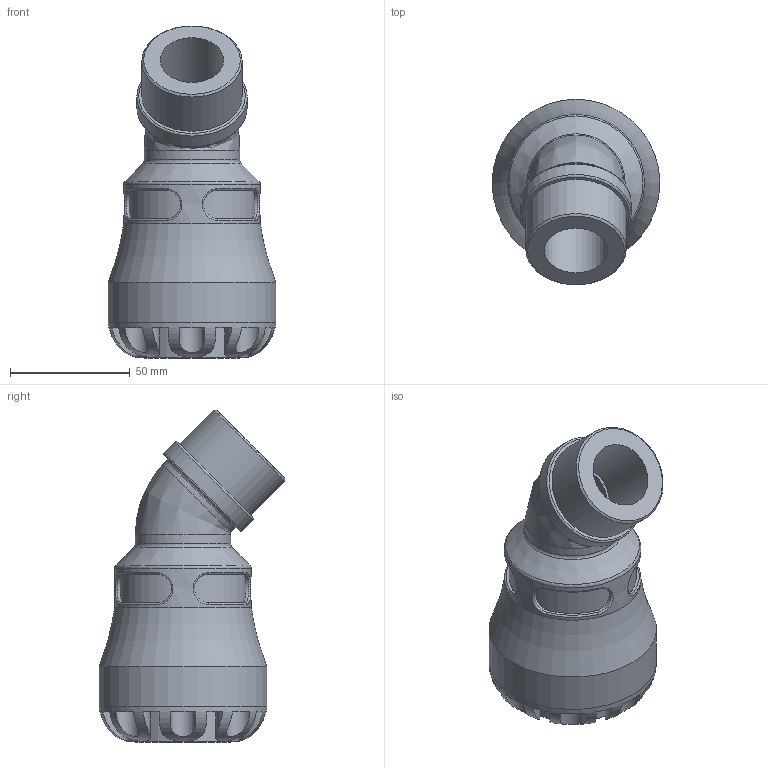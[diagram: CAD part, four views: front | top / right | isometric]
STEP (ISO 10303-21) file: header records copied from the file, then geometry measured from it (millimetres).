
FILE_DESCRIPTION(/* description */ ('PLASSON 45° Elbow with Threaded Male Offtake 40 X 1¼'''''),/* implementation_level */ '2;1');
FILE_NAME(/* name */ 'C:\Dropbox\KIMPROJECTS-Inventor\99-16-3568-Processing\S1\27.01.19\1045\104500040013.ipt.stp',/* time_stamp */ '2019-01-27T09:13:26+02:00',/* author */ ('KIM'),/* organization */ (''),/* preprocessor_version */ 'ST-DEVELOPER v15.6',/* originating_system */ 'Autodesk Inventor 2015',/* authorisation */ '');
FILE_SCHEMA (('AUTOMOTIVE_DESIGN { 1 0 10303 214 3 1 1 }'));
Length unit declared in the file: millimetre
Products named in the file (1): 104500040013
Bounding box: 70 x 77.54 x 138.54 mm (x, y, z)
Volume: 181821.4 mm3; surface area: 46518.2 mm2
Topology: 1 solids, 1 shells, 116 faces, 255 edges, 150 vertices
Faces by surface type: cylinder 53, plane 30, torus 18, bspline 12, cone 3
Full cylindrical faces by diameter (mm): 26.403 x2, 39.815 x2, 40 x1, 41.91 x1, 46.101 x1, 57.057 x1, 70 x1
Entity records: 5204 total; most frequent: CARTESIAN_POINT 2662, DIRECTION 502, ORIENTED_EDGE 486, AXIS2_PLACEMENT_3D 238, EDGE_CURVE 230, EDGE_LOOP 153, VERTEX_POINT 148, CIRCLE 133
